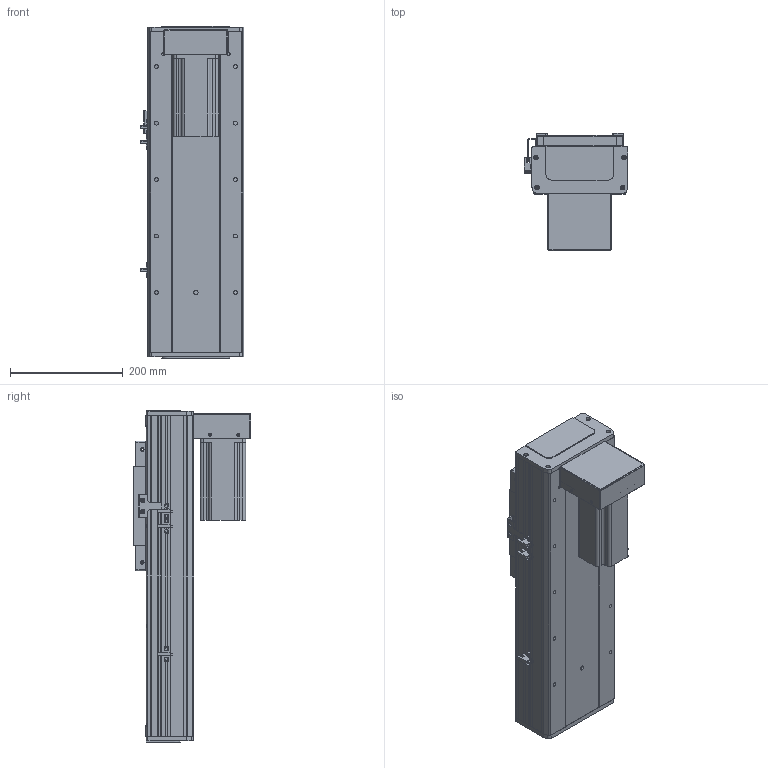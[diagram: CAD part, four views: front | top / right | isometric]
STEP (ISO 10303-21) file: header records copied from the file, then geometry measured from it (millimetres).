
FILE_DESCRIPTION (( 'STEP AP203' ), '1' );
FILE_NAME ('RY170F-L2010-300-BK.SLDASM_250.step', '2021-03-02T08:55:33', ( '盈信电脑' ), ( '东莞市道滘镇水果街19号' ), 'SwSTEP 2.0', 'SolidWorks 2012', '' );
FILE_SCHEMA (( 'CONFIG_CONTROL_DESIGN' ));
Length unit declared in the file: millimetre
Products named in the file (20): 怢湛750W萇儂ㄗ80遺ㄘ; RY170F-L2010-300-BK.SLDASM_250; RY170F狟殏萇儂欶; RY170狟殏詩湍假蚾輸; 滅袉蝶18-24; RY170F-狟殏萇儂假蚾啣(750W); RY170F-詩湍揤踡輸; 侐源滅袉蝶; RY170F俋离覜茼え; RY170F-揤踡謫假蚾粣; RY170F-綴裔啣; 覜茼ん672; 滅袉蝶18-10; RY170F-丝杆铝滑块连接板; RY100F-詩湍揤踡謫; RY170F-300眻蟀倰第奻裔啣-BK_250; RY170F-滅鳥奻裔; RY170F-300眻蟀倰第菁釱-BK_250; RY170F-佪裝臏賑輸20蹟譫; RY170F-300眻蟀祥凄詩湍-MK_250
Assembly tree (25 placements, depth 2):
  RY170F-L2010-300-BK.SLDASM_250
    RY170F-300眻蟀祥凄詩湍-MK_250
    RY170F-300眻蟀倰第奻裔啣-BK_250  x2
    RY170F-滅鳥奻裔
    RY170F-300眻蟀倰第菁釱-BK_250
    RY170F-佪裝臏賑輸20蹟譫
    RY170F-丝杆铝滑块连接板
    滅袉蝶18-10
    RY100F-詩湍揤踡謫
    RY170F-綴裔啣  x2
    覜茼ん672  x3
    RY170F俋离覜茼え
    RY170F-揤踡謫假蚾粣
    RY170F-詩湍揤踡輸  x2
    滅袉蝶18-24
    侐源滅袉蝶  x2
    RY170F-狟殏萇儂假蚾啣(750W)
    怢湛750W萇儂ㄗ80遺ㄘ
    RY170F狟殏萇儂欶
    RY170狟殏詩湍假蚾輸
Bounding box: 183.7 x 208 x 588 mm (x, y, z)
Volume: 4455722.9 mm3; surface area: 1353907.5 mm2
Topology: 25 solids, 25 shells, 1774 faces, 4917 edges, 3138 vertices
Faces by surface type: cylinder 832, plane 762, cone 176, bspline 4
Entity records: 49500 total; most frequent: CARTESIAN_POINT 9950, DIRECTION 7974, ORIENTED_EDGE 7638, EDGE_CURVE 3819, AXIS2_PLACEMENT_3D 2858, VERTEX_POINT 2494, LINE 2258, VECTOR 2258
